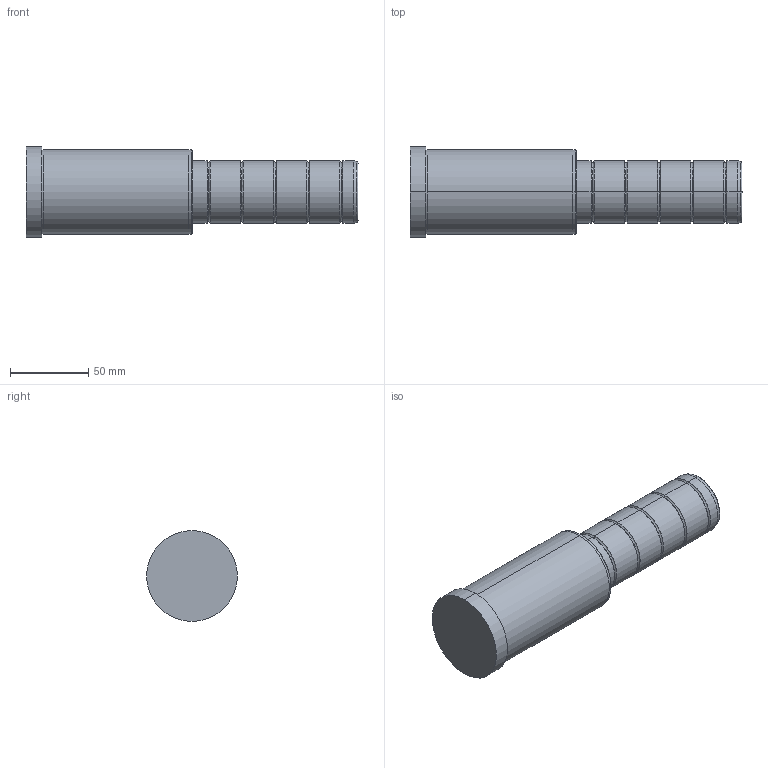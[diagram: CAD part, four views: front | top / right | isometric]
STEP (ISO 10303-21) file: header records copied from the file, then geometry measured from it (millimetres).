
FILE_DESCRIPTION( ( 'STEP AP203' ), '1' );
FILE_NAME( 'C:/Projects/D02 - 40x106x106.step', '2003-01-04T14:09:31', ( ' ' ), ( ' ' ), 'XStep 1.0', ' ', ' ' );
FILE_SCHEMA( ( 'CONFIG_CONTROL_DESIGN' ) );
Length unit declared in the file: metre
Products named in the file (1): 1
Bounding box: 212 x 58 x 58 mm (x, y, z)
Volume: 378500 mm3; surface area: 37178.4 mm2
Topology: 1 solids, 1 shells, 54 faces, 106 edges, 58 vertices
Faces by surface type: bspline 30, revolution 24
Entity records: 1721 total; most frequent: CARTESIAN_POINT 717, ORIENTED_EDGE 212, DIRECTION 166, EDGE_CURVE 106, AXIS2_PLACEMENT_3D 59, EDGE_LOOP 58, VERTEX_POINT 58, CIRCLE 58
